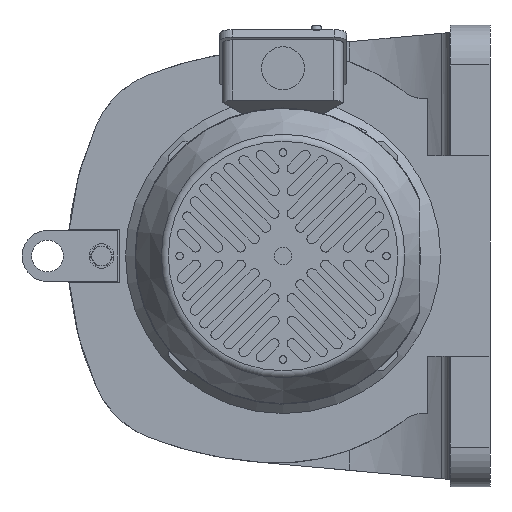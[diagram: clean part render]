
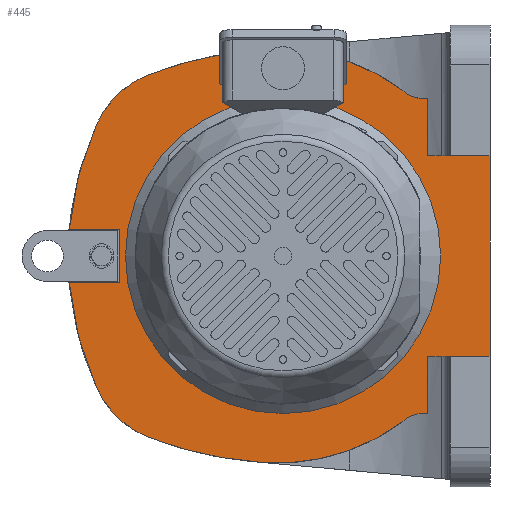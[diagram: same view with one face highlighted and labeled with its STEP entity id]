
A CAD part, left-side view. The second image highlights one B-rep face of the part: STEP entity #445.
In plain terms, the highlighted planar face has unit normal (-1, 0, 0).
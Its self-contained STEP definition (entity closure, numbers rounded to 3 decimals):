
#445 = ADVANCED_FACE( '', ( #1338 ), #1339, .F. );
#1338 = FACE_OUTER_BOUND( '', #3074, .T. );
#1339 = PLANE( '', #3075 );
#3074 = EDGE_LOOP( '', ( #5234, #5235, #5236, #5237, #5238, #5239, #5240, #5241, #5242, #5243, #5244, #5245, #5246, #5247, #5248, #5249 ) );
#3075 = AXIS2_PLACEMENT_3D( '', #5250, #5251, #5252 );
#5234 = ORIENTED_EDGE( '', *, *, #11583, .F. );
#5235 = ORIENTED_EDGE( '', *, *, #11779, .F. );
#5236 = ORIENTED_EDGE( '', *, *, #11786, .F. );
#5237 = ORIENTED_EDGE( '', *, *, #11781, .F. );
#5238 = ORIENTED_EDGE( '', *, *, #11787, .F. );
#5239 = ORIENTED_EDGE( '', *, *, #11788, .F. );
#5240 = ORIENTED_EDGE( '', *, *, #11592, .T. );
#5241 = ORIENTED_EDGE( '', *, *, #11597, .F. );
#5242 = ORIENTED_EDGE( '', *, *, #11608, .F. );
#5243 = ORIENTED_EDGE( '', *, *, #11605, .F. );
#5244 = ORIENTED_EDGE( '', *, *, #11602, .F. );
#5245 = ORIENTED_EDGE( '', *, *, #11789, .F. );
#5246 = ORIENTED_EDGE( '', *, *, #11790, .F. );
#5247 = ORIENTED_EDGE( '', *, *, #11578, .F. );
#5248 = ORIENTED_EDGE( '', *, *, #11791, .T. );
#5249 = ORIENTED_EDGE( '', *, *, #11792, .F. );
#5250 = CARTESIAN_POINT( '', ( -154., -41., -105. ) );
#5251 = DIRECTION( '', ( 1., 0., 0. ) );
#5252 = DIRECTION( '', ( 0., 0., -1. ) );
#11578 = EDGE_CURVE( '', #13757, #13759, #13760, .T. );
#11583 = EDGE_CURVE( '', #13766, #13769, #13770, .T. );
#11592 = EDGE_CURVE( '', #13780, #13784, #13786, .T. );
#11597 = EDGE_CURVE( '', #13793, #13784, #13795, .T. );
#11602 = EDGE_CURVE( '', #13803, #13805, #13806, .T. );
#11605 = EDGE_CURVE( '', #13805, #13810, #13811, .T. );
#11608 = EDGE_CURVE( '', #13810, #13793, #13815, .T. );
#11779 = EDGE_CURVE( '', #14120, #13766, #14122, .T. );
#11781 = EDGE_CURVE( '', #14124, #14125, #14126, .T. );
#11786 = EDGE_CURVE( '', #14125, #14120, #14133, .T. );
#11787 = EDGE_CURVE( '', #14134, #14124, #14135, .T. );
#11788 = EDGE_CURVE( '', #13780, #14134, #14136, .T. );
#11789 = EDGE_CURVE( '', #14137, #13803, #14138, .T. );
#11790 = EDGE_CURVE( '', #13759, #14137, #14139, .T. );
#11791 = EDGE_CURVE( '', #13757, #14140, #14141, .T. );
#11792 = EDGE_CURVE( '', #13769, #14140, #14142, .T. );
#13757 = VERTEX_POINT( '', #17401 );
#13759 = VERTEX_POINT( '', #17404 );
#13760 = CIRCLE( '', #17405, 130. );
#13766 = VERTEX_POINT( '', #17419 );
#13769 = VERTEX_POINT( '', #17422 );
#13770 = LINE( '', #17423, #17424 );
#13780 = VERTEX_POINT( '', #17447 );
#13784 = VERTEX_POINT( '', #17463 );
#13786 = CIRCLE( '', #17466, 20. );
#13793 = VERTEX_POINT( '', #17491 );
#13795 = CIRCLE( '', #17494, 130. );
#13803 = VERTEX_POINT( '', #17506 );
#13805 = VERTEX_POINT( '', #17509 );
#13806 = CIRCLE( '', #17510, 200. );
#13810 = VERTEX_POINT( '', #17538 );
#13811 = CIRCLE( '', #17539, 60. );
#13815 = CIRCLE( '', #17561, 235. );
#14120 = VERTEX_POINT( '', #18043 );
#14122 = LINE( '', #18046, #18047 );
#14124 = VERTEX_POINT( '', #18049 );
#14125 = VERTEX_POINT( '', #18050 );
#14126 = LINE( '', #18051, #18052 );
#14133 = LINE( '', #18061, #18062 );
#14134 = VERTEX_POINT( '', #18063 );
#14135 = LINE( '', #18064, #18065 );
#14136 = LINE( '', #18066, #18067 );
#14137 = VERTEX_POINT( '', #18068 );
#14138 = CIRCLE( '', #18069, 60. );
#14139 = CIRCLE( '', #18070, 235. );
#14140 = VERTEX_POINT( '', #18071 );
#14141 = CIRCLE( '', #18072, 20. );
#14142 = LINE( '', #18073, #18074 );
#17401 = CARTESIAN_POINT( '', ( -154., -114.365, -104.473 ) );
#17404 = CARTESIAN_POINT( '', ( -154., -25.409, -129.482 ) );
#17405 = AXIS2_PLACEMENT_3D( '', #23413, #23414, #23415 );
#17419 = CARTESIAN_POINT( '', ( -154., -130.945, -62.9 ) );
#17422 = CARTESIAN_POINT( '', ( -154., -130.945, -99. ) );
#17423 = CARTESIAN_POINT( '', ( -154., -130.945, 142.365 ) );
#17424 = VECTOR( '', #23423, 1000. );
#17447 = CARTESIAN_POINT( '', ( -154., -125.499, 99. ) );
#17463 = CARTESIAN_POINT( '', ( -154., -114.365, 104.473 ) );
#17466 = AXIS2_PLACEMENT_3D( '', #23434, #23435, #23436 );
#17491 = CARTESIAN_POINT( '', ( -154., -25.409, 129.482 ) );
#17494 = AXIS2_PLACEMENT_3D( '', #23441, #23442, #23443 );
#17506 = CARTESIAN_POINT( '', ( -154., 77.389, -82.061 ) );
#17509 = CARTESIAN_POINT( '', ( -154., 77.389, 82.061 ) );
#17510 = AXIS2_PLACEMENT_3D( '', #23449, #23450, #23451 );
#17538 = CARTESIAN_POINT( '', ( -154., 45.792, 113.385 ) );
#17539 = AXIS2_PLACEMENT_3D( '', #23453, #23454, #23455 );
#17561 = AXIS2_PLACEMENT_3D( '', #23457, #23458, #23459 );
#18043 = CARTESIAN_POINT( '', ( -154., -170., -62.9 ) );
#18046 = CARTESIAN_POINT( '', ( -154., -170., -62.9 ) );
#18047 = VECTOR( '', #23723, 1000. );
#18049 = CARTESIAN_POINT( '', ( -154., -130.945, 62.9 ) );
#18050 = CARTESIAN_POINT( '', ( -154., -170., 62.9 ) );
#18051 = CARTESIAN_POINT( '', ( -154., 0., 62.9 ) );
#18052 = VECTOR( '', #23727, 1000. );
#18061 = CARTESIAN_POINT( '', ( -154., -170., 62.9 ) );
#18062 = VECTOR( '', #23736, 1000. );
#18063 = CARTESIAN_POINT( '', ( -154., -130.945, 99. ) );
#18064 = CARTESIAN_POINT( '', ( -154., -130.945, 142.365 ) );
#18065 = VECTOR( '', #23737, 1000. );
#18066 = CARTESIAN_POINT( '', ( -154., -125.499, 99. ) );
#18067 = VECTOR( '', #23738, 1000. );
#18068 = CARTESIAN_POINT( '', ( -154., 45.792, -113.385 ) );
#18069 = AXIS2_PLACEMENT_3D( '', #23739, #23740, #23741 );
#18070 = AXIS2_PLACEMENT_3D( '', #23742, #23743, #23744 );
#18071 = CARTESIAN_POINT( '', ( -154., -125.499, -99. ) );
#18072 = AXIS2_PLACEMENT_3D( '', #23745, #23746, #23747 );
#18073 = CARTESIAN_POINT( '', ( -154., -167., -99. ) );
#18074 = VECTOR( '', #23748, 1000. );
#23413 = CARTESIAN_POINT( '', ( -154., -37., 0. ) );
#23414 = DIRECTION( '', ( 1., 0., 0. ) );
#23415 = DIRECTION( '', ( 0., 0., -1. ) );
#23423 = DIRECTION( '', ( 0., 0., -1. ) );
#23434 = CARTESIAN_POINT( '', ( -154., -128.32, 118.8 ) );
#23435 = DIRECTION( '', ( 1., 0., 0. ) );
#23436 = DIRECTION( '', ( 0., 0., -1. ) );
#23441 = CARTESIAN_POINT( '', ( -154., -37., 0. ) );
#23442 = DIRECTION( '', ( 1., 0., 0. ) );
#23443 = DIRECTION( '', ( 0., 0., -1. ) );
#23449 = CARTESIAN_POINT( '', ( -154., -105., 0. ) );
#23450 = DIRECTION( '', ( 1., 0., 0. ) );
#23451 = DIRECTION( '', ( 0., 0., -1. ) );
#23453 = CARTESIAN_POINT( '', ( -154., 22.36, 58.15 ) );
#23454 = DIRECTION( '', ( 1., 0., 0. ) );
#23455 = DIRECTION( '', ( 0., 0., -1. ) );
#23457 = CARTESIAN_POINT( '', ( -154., -41., -105. ) );
#23458 = DIRECTION( '', ( 1., 0., 0. ) );
#23459 = DIRECTION( '', ( 0., 0., -1. ) );
#23723 = DIRECTION( '', ( 0., 1., 0. ) );
#23727 = DIRECTION( '', ( 0., -1., 0. ) );
#23736 = DIRECTION( '', ( 0., 0., -1. ) );
#23737 = DIRECTION( '', ( 0., 0., -1. ) );
#23738 = DIRECTION( '', ( 0., -1., 0. ) );
#23739 = CARTESIAN_POINT( '', ( -154., 22.36, -58.15 ) );
#23740 = DIRECTION( '', ( 1., 0., 0. ) );
#23741 = DIRECTION( '', ( 0., 0., -1. ) );
#23742 = CARTESIAN_POINT( '', ( -154., -41., 105. ) );
#23743 = DIRECTION( '', ( 1., 0., 0. ) );
#23744 = DIRECTION( '', ( 0., 0., -1. ) );
#23745 = CARTESIAN_POINT( '', ( -154., -128.32, -118.8 ) );
#23746 = DIRECTION( '', ( 1., 0., 0. ) );
#23747 = DIRECTION( '', ( 0., 0., -1. ) );
#23748 = DIRECTION( '', ( 0., 1., 0. ) );
